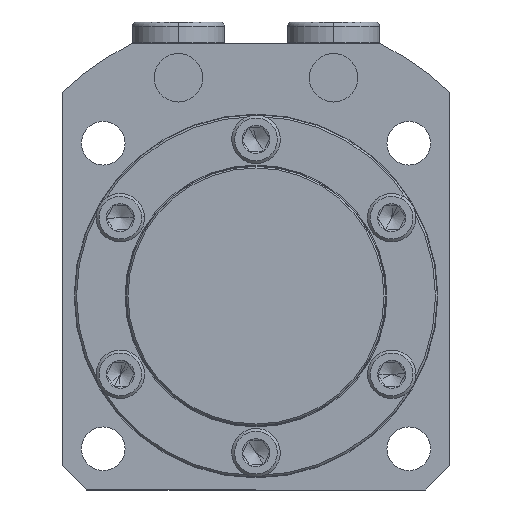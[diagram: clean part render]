
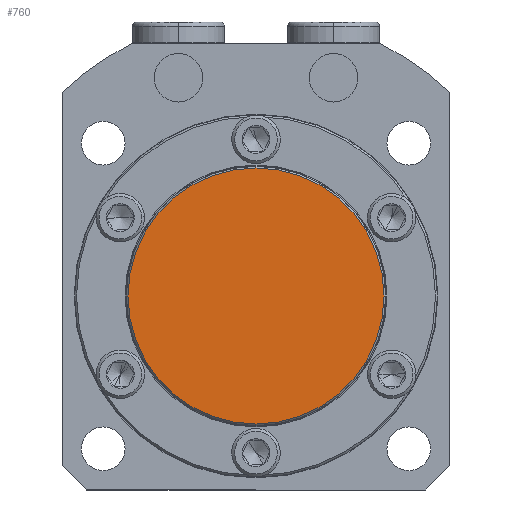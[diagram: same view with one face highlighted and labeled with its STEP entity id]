
A CAD part, front view. The second image highlights one B-rep face of the part: STEP entity #760.
In plain terms, the highlighted planar face has unit normal (0, -1, 0).
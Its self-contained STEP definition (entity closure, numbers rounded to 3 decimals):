
#114 = FACE_OUTER_BOUND ( 'NONE', #4691, .T. ) ;
#115 = PLANE ( 'NONE',  #3395 ) ;
#118 = CARTESIAN_POINT ( 'NONE',  ( 0., -12.2, 0. ) ) ;
#119 = DIRECTION ( 'NONE',  ( 0., -1., 0. ) ) ;
#120 = DIRECTION ( 'NONE',  ( 0., 0., -1. ) ) ;
#610 = CARTESIAN_POINT ( 'NONE',  ( 0., -12.2, 0. ) ) ;
#611 = DIRECTION ( 'NONE',  ( 0., -1., 0. ) ) ;
#612 = DIRECTION ( 'NONE',  ( 0., 0., -1. ) ) ;
#671 = EDGE_CURVE ( 'NONE', #4459, #3645, #2076, .T. ) ;
#760 = ADVANCED_FACE ( 'NONE', ( #114 ), #115, .T. ) ;
#1595 = CARTESIAN_POINT ( 'NONE',  ( 0., -12.2, 26.4 ) ) ;
#1800 = EDGE_CURVE ( 'NONE', #3645, #4459, #3557, .T. ) ;
#2076 = CIRCLE ( 'NONE', #2084, 26.4 ) ;
#2084 = AXIS2_PLACEMENT_3D ( 'NONE', #3854, #3855, #3856 ) ;
#2209 = ORIENTED_EDGE ( 'NONE', *, *, #1800, .T. ) ;
#2210 = ORIENTED_EDGE ( 'NONE', *, *, #671, .T. ) ;
#3395 = AXIS2_PLACEMENT_3D ( 'NONE', #118, #119, #120 ) ;
#3557 = CIRCLE ( 'NONE', #3560, 26.4 ) ;
#3560 = AXIS2_PLACEMENT_3D ( 'NONE', #610, #611, #612 ) ;
#3645 = VERTEX_POINT ( 'NONE', #1595 ) ;
#3854 = CARTESIAN_POINT ( 'NONE',  ( 0., -12.2, 0. ) ) ;
#3855 = DIRECTION ( 'NONE',  ( 0., -1., 0. ) ) ;
#3856 = DIRECTION ( 'NONE',  ( 0., 0., -1. ) ) ;
#4459 = VERTEX_POINT ( 'NONE', #5099 ) ;
#4691 = EDGE_LOOP ( 'NONE', ( #2209, #2210 ) ) ;
#5099 = CARTESIAN_POINT ( 'NONE',  ( 0., -12.2, -26.4 ) ) ;
